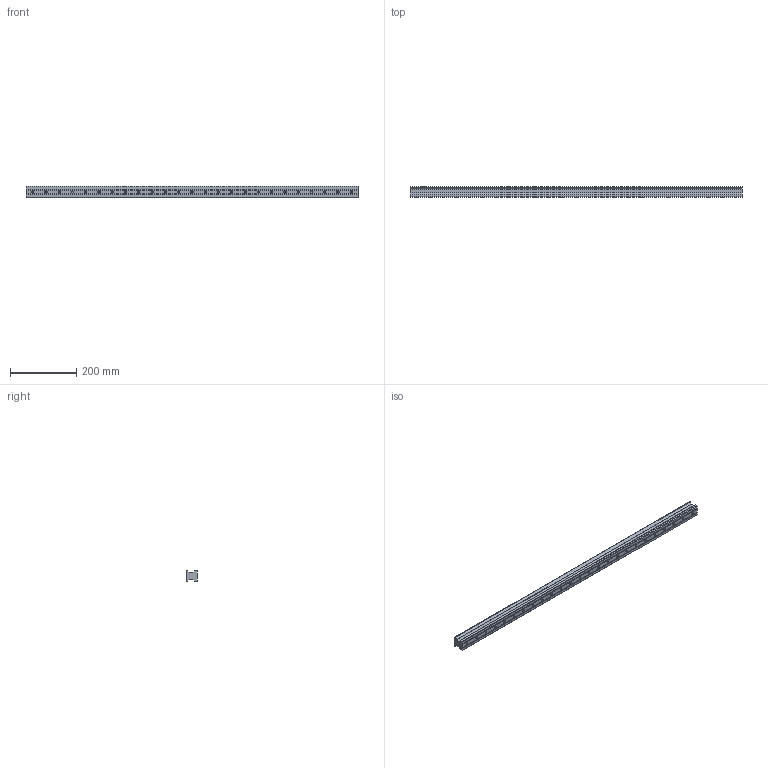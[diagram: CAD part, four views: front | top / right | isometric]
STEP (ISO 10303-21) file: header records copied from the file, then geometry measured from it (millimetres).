
FILE_DESCRIPTION(/* description */ (''),/* implementation_level */ '2;1');
FILE_NAME(/* name */ 'URR35T1000H_GW202603049641.stp',/* time_stamp */ '2026-03-30T23:05:16+08:00',/* author */ ('User'),/* organization */ (''),/* preprocessor_version */ 'ST-DEVELOPER v20.1',/* originating_system */ 'Autodesk Inventor 2026',/* authorisation */ '');
FILE_SCHEMA (('AUTOMOTIVE_DESIGN { 1 0 10303 214 3 1 1 }'));
Length unit declared in the file: centimetre
Products named in the file (2): URR35T1000H_GW202603049641; UR35
Assembly tree (1 placements, depth 2):
  URR35T1000H_GW202603049641
    UR35
Bounding box: 1000 x 32.5 x 34 mm (x, y, z)
Volume: 887930.3 mm3; surface area: 153471.9 mm2
Topology: 1 solids, 1 shells, 209 faces, 581 edges, 379 vertices
Faces by surface type: plane 92, bspline 57, cylinder 35, cone 25
Full cylindrical faces by diameter (mm): 6.647 x25
Entity records: 7909 total; most frequent: CARTESIAN_POINT 2920, ORIENTED_EDGE 1112, DIRECTION 826, EDGE_CURVE 556, VERTEX_POINT 379, LINE 372, VECTOR 372, EDGE_LOOP 239
